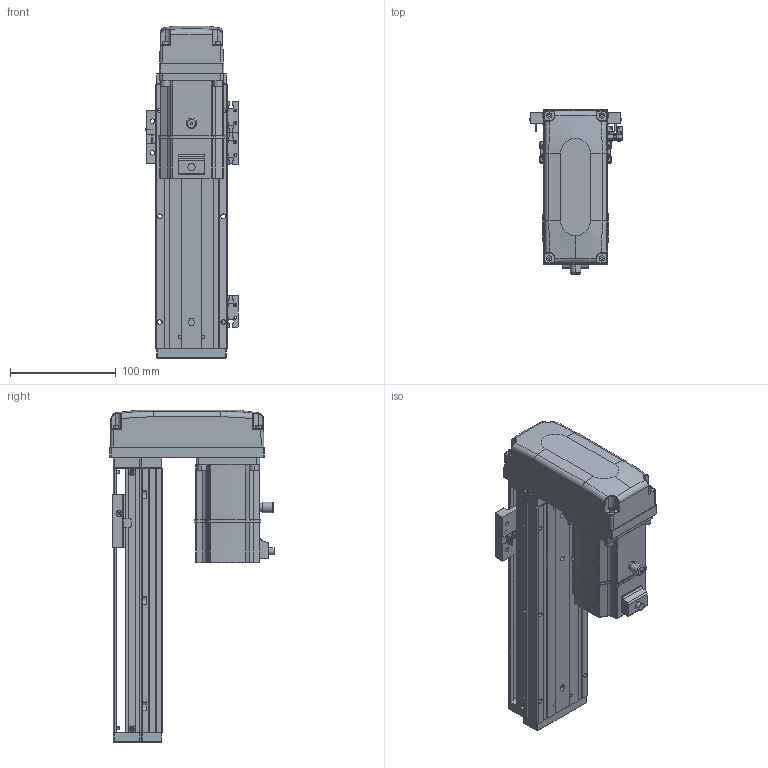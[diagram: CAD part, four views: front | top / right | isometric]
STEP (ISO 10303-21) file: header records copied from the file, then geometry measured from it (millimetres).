
FILE_DESCRIPTION (( 'STEP AP203' ), '1' );
FILE_NAME ('KTHA60-150-BM-M20-C4L.step', '2022-12-16T01:34:28', ( '微软用户' ), ( '微软中国' ), 'SwSTEP 2.0', 'SolidWorks 2020', '' );
FILE_SCHEMA (( 'CONFIG_CONTROL_DESIGN' ));
Length unit declared in the file: millimetre
Products named in the file (17): KTHA60-150-BM-M20-C4L; GBT 70.1-M3℅6; GB¨uT 70.2-M3¡Á5_M3¡Á6; CTHA60-016; GBT 70.3-M3℅6; KTHA60-002; EE_SX911P_R; BTH80-026; CTHA60-017; KTHA60-001_250; CTHA60-006-2_CTHA60-006-2; CTHA60-021; GBT 70.1-M4×16; KTHA60-004; _X2_4E0983F1_X0_200W_1; GBT77-2000M3-3; KTHA60-005
Assembly tree (51 placements, depth 2):
  KTHA60-150-BM-M20-C4L
    KTHA60-001_250
    KTHA60-004
    KTHA60-005
    GB¨uT 70.2-M3¡Á5_M3¡Á6  x6
    GBT 70.3-M3℅6  x4
    EE_SX911P_R  x3
    CTHA60-017  x3
    CTHA60-021  x2
    GBT 70.1-M4×16  x8
    GBT77-2000M3-3  x6
    GBT 70.1-M3℅6  x10
    CTHA60-016  x2
    KTHA60-002
    BTH80-026
    CTHA60-006-2_CTHA60-006-2
    _X2_4E0983F1_X0_200W_1
Bounding box: 87.72 x 155.2 x 314 mm (x, y, z)
Volume: 947958.2 mm3; surface area: 249586 mm2
Topology: 54 solids, 54 shells, 2368 faces, 5605 edges, 3442 vertices
Faces by surface type: plane 1249, cylinder 626, cone 276, bspline 109, torus 92, sphere 16
Entity records: 42948 total; most frequent: CARTESIAN_POINT 10146, DIRECTION 6258, ORIENTED_EDGE 6258, EDGE_CURVE 3129, AXIS2_PLACEMENT_3D 2173, VERTEX_POINT 1951, LINE 1912, VECTOR 1912
